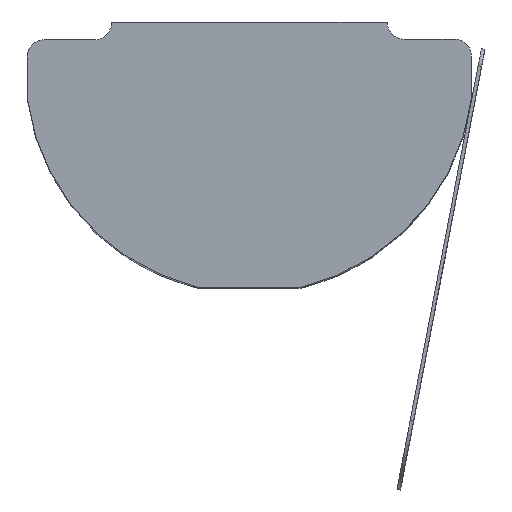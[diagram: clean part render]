
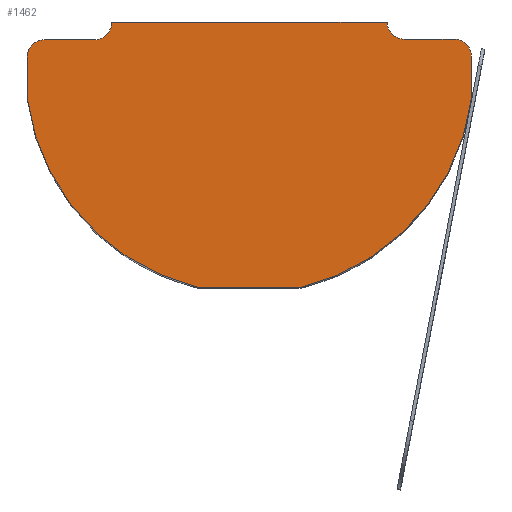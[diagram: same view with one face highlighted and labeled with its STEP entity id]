
A CAD part, top view. The second image highlights one B-rep face of the part: STEP entity #1462.
In plain terms, the highlighted planar face has unit normal (0, 0, 1).
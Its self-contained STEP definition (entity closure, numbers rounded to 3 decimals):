
#12 = EDGE_CURVE ( 'NONE', #1015, #1256, #1178, .T. ) ;
#14 = PLANE ( 'NONE',  #496 ) ;
#58 = CARTESIAN_POINT ( 'NONE',  ( -7.662, 0.56, 12.182 ) ) ;
#82 = DIRECTION ( 'NONE',  ( 0., -1., 0. ) ) ;
#110 = VERTEX_POINT ( 'NONE', #1385 ) ;
#116 = DIRECTION ( 'NONE',  ( 1., 0., 0. ) ) ;
#145 = CARTESIAN_POINT ( 'NONE',  ( 5.243, -0.655, 12.182 ) ) ;
#149 = CIRCLE ( 'NONE', #603, 6.509 ) ;
#178 = ORIENTED_EDGE ( 'NONE', *, *, #1261, .T. ) ;
#190 = DIRECTION ( 'NONE',  ( 1., 0., 0. ) ) ;
#191 = CARTESIAN_POINT ( 'NONE',  ( -7.662, -0.637, 12.182 ) ) ;
#205 = CARTESIAN_POINT ( 'NONE',  ( -7.662, -0.637, 12.182 ) ) ;
#215 = ORIENTED_EDGE ( 'NONE', *, *, #1771, .T. ) ;
#218 = AXIS2_PLACEMENT_3D ( 'NONE', #1222, #1410, #1101 ) ;
#249 = VERTEX_POINT ( 'NONE', #205 ) ;
#252 = ORIENTED_EDGE ( 'NONE', *, *, #501, .T. ) ;
#276 = CARTESIAN_POINT ( 'NONE',  ( -2.708, -6.122, 12.182 ) ) ;
#303 = ORIENTED_EDGE ( 'NONE', *, *, #618, .T. ) ;
#320 = VECTOR ( 'NONE', #590, 1000. ) ;
#344 = DIRECTION ( 'NONE',  ( -1., 0., 0. ) ) ;
#361 = CARTESIAN_POINT ( 'NONE',  ( 4.743, 0.578, 12.182 ) ) ;
#363 = VERTEX_POINT ( 'NONE', #542 ) ;
#379 = VECTOR ( 'NONE', #82, 1000. ) ;
#390 = VERTEX_POINT ( 'NONE', #58 ) ;
#424 = EDGE_CURVE ( 'NONE', #1165, #1943, #1090, .T. ) ;
#452 = CARTESIAN_POINT ( 'NONE',  ( 2.792, 1.078, 12.182 ) ) ;
#484 = DIRECTION ( 'NONE',  ( 0., 0., 1. ) ) ;
#496 = AXIS2_PLACEMENT_3D ( 'NONE', #1719, #815, #1259 ) ;
#501 = EDGE_CURVE ( 'NONE', #1943, #1015, #841, .T. ) ;
#542 = CARTESIAN_POINT ( 'NONE',  ( 0.292, -6.122, 12.182 ) ) ;
#558 = VERTEX_POINT ( 'NONE', #1286 ) ;
#590 = DIRECTION ( 'NONE',  ( 0., 1., 0. ) ) ;
#597 = CARTESIAN_POINT ( 'NONE',  ( -7.162, 1.06, 12.182 ) ) ;
#598 = LINE ( 'NONE', #1973, #320 ) ;
#603 = AXIS2_PLACEMENT_3D ( 'NONE', #1346, #706, #1790 ) ;
#618 = EDGE_CURVE ( 'NONE', #249, #822, #149, .T. ) ;
#680 = CARTESIAN_POINT ( 'NONE',  ( -5.208, 1.578, 12.182 ) ) ;
#706 = DIRECTION ( 'NONE',  ( 0., 0., 1. ) ) ;
#713 = ORIENTED_EDGE ( 'NONE', *, *, #424, .T. ) ;
#739 = EDGE_CURVE ( 'NONE', #558, #1375, #820, .T. ) ;
#784 = ORIENTED_EDGE ( 'NONE', *, *, #1896, .T. ) ;
#787 = CARTESIAN_POINT ( 'NONE',  ( -1.208, 0.212, 12.182 ) ) ;
#815 = DIRECTION ( 'NONE',  ( 0., 0., 1. ) ) ;
#816 = DIRECTION ( 'NONE',  ( 0., 0., 1. ) ) ;
#820 = LINE ( 'NONE', #1881, #1194 ) ;
#822 = VERTEX_POINT ( 'NONE', #971 ) ;
#841 = LINE ( 'NONE', #1125, #888 ) ;
#857 = ORIENTED_EDGE ( 'NONE', *, *, #739, .T. ) ;
#868 = LINE ( 'NONE', #452, #1818 ) ;
#888 = VECTOR ( 'NONE', #1735, 1000. ) ;
#890 = CIRCLE ( 'NONE', #1062, 0.5 ) ;
#909 = ORIENTED_EDGE ( 'NONE', *, *, #12, .T. ) ;
#911 = CARTESIAN_POINT ( 'NONE',  ( -5.708, 1.56, 12.182 ) ) ;
#925 = AXIS2_PLACEMENT_3D ( 'NONE', #911, #1523, #116 ) ;
#926 = LINE ( 'NONE', #276, #1155 ) ;
#957 = AXIS2_PLACEMENT_3D ( 'NONE', #1080, #1698, #1987 ) ;
#971 = CARTESIAN_POINT ( 'NONE',  ( -2.708, -6.122, 12.182 ) ) ;
#1015 = VERTEX_POINT ( 'NONE', #1082 ) ;
#1026 = EDGE_CURVE ( 'NONE', #822, #363, #926, .T. ) ;
#1062 = AXIS2_PLACEMENT_3D ( 'NONE', #361, #484, #1437 ) ;
#1080 = CARTESIAN_POINT ( 'NONE',  ( -7.162, 0.56, 12.182 ) ) ;
#1082 = CARTESIAN_POINT ( 'NONE',  ( -5.208, 1.578, 12.182 ) ) ;
#1090 = CIRCLE ( 'NONE', #218, 0.5 ) ;
#1101 = DIRECTION ( 'NONE',  ( 1., 0., 0. ) ) ;
#1125 = CARTESIAN_POINT ( 'NONE',  ( -5.208, 1.578, 12.182 ) ) ;
#1136 = CARTESIAN_POINT ( 'NONE',  ( 5.243, 0.578, 12.182 ) ) ;
#1155 = VECTOR ( 'NONE', #1355, 1000. ) ;
#1165 = VERTEX_POINT ( 'NONE', #1825 ) ;
#1178 = LINE ( 'NONE', #680, #1890 ) ;
#1194 = VECTOR ( 'NONE', #344, 1000. ) ;
#1200 = CARTESIAN_POINT ( 'NONE',  ( 2.792, 1.578, 12.182 ) ) ;
#1222 = CARTESIAN_POINT ( 'NONE',  ( 3.292, 1.578, 12.182 ) ) ;
#1256 = VERTEX_POINT ( 'NONE', #1429 ) ;
#1259 = DIRECTION ( 'NONE',  ( 1., 0., 0. ) ) ;
#1261 = EDGE_CURVE ( 'NONE', #363, #1925, #1861, .T. ) ;
#1286 = CARTESIAN_POINT ( 'NONE',  ( -5.708, 1.06, 12.182 ) ) ;
#1346 = CARTESIAN_POINT ( 'NONE',  ( -1.208, 0.212, 12.182 ) ) ;
#1355 = DIRECTION ( 'NONE',  ( 1., 0., 0. ) ) ;
#1375 = VERTEX_POINT ( 'NONE', #597 ) ;
#1385 = CARTESIAN_POINT ( 'NONE',  ( 4.743, 1.078, 12.182 ) ) ;
#1392 = DIRECTION ( 'NONE',  ( -1., 0., 0. ) ) ;
#1410 = DIRECTION ( 'NONE',  ( 0., 0., -1. ) ) ;
#1427 = ORIENTED_EDGE ( 'NONE', *, *, #1940, .T. ) ;
#1429 = CARTESIAN_POINT ( 'NONE',  ( -5.208, 1.56, 12.182 ) ) ;
#1437 = DIRECTION ( 'NONE',  ( 1., 0., 0. ) ) ;
#1462 = ADVANCED_FACE ( 'NONE', ( #1550 ), #14, .T. ) ;
#1523 = DIRECTION ( 'NONE',  ( 0., 0., -1. ) ) ;
#1529 = EDGE_LOOP ( 'NONE', ( #857, #1762, #215, #303, #1601, #178, #1427, #1778, #1873, #713, #252, #909, #784 ) ) ;
#1550 = FACE_OUTER_BOUND ( 'NONE', #1529, .T. ) ;
#1562 = LINE ( 'NONE', #191, #379 ) ;
#1601 = ORIENTED_EDGE ( 'NONE', *, *, #1026, .T. ) ;
#1644 = EDGE_CURVE ( 'NONE', #1375, #390, #1919, .T. ) ;
#1698 = DIRECTION ( 'NONE',  ( 0., 0., 1. ) ) ;
#1707 = EDGE_CURVE ( 'NONE', #1734, #110, #890, .T. ) ;
#1719 = CARTESIAN_POINT ( 'NONE',  ( -1.208, 0.212, 12.182 ) ) ;
#1734 = VERTEX_POINT ( 'NONE', #1136 ) ;
#1735 = DIRECTION ( 'NONE',  ( -1., 0., 0. ) ) ;
#1762 = ORIENTED_EDGE ( 'NONE', *, *, #1644, .T. ) ;
#1771 = EDGE_CURVE ( 'NONE', #390, #249, #1562, .T. ) ;
#1778 = ORIENTED_EDGE ( 'NONE', *, *, #1707, .T. ) ;
#1787 = CIRCLE ( 'NONE', #925, 0.5 ) ;
#1790 = DIRECTION ( 'NONE',  ( 1., 0., 0. ) ) ;
#1818 = VECTOR ( 'NONE', #1392, 1000. ) ;
#1825 = CARTESIAN_POINT ( 'NONE',  ( 3.292, 1.078, 12.182 ) ) ;
#1837 = EDGE_CURVE ( 'NONE', #110, #1165, #868, .T. ) ;
#1861 = CIRCLE ( 'NONE', #1995, 6.509 ) ;
#1873 = ORIENTED_EDGE ( 'NONE', *, *, #1837, .T. ) ;
#1881 = CARTESIAN_POINT ( 'NONE',  ( -7.662, 1.06, 12.182 ) ) ;
#1890 = VECTOR ( 'NONE', #1930, 1000. ) ;
#1896 = EDGE_CURVE ( 'NONE', #1256, #558, #1787, .T. ) ;
#1919 = CIRCLE ( 'NONE', #957, 0.5 ) ;
#1925 = VERTEX_POINT ( 'NONE', #145 ) ;
#1930 = DIRECTION ( 'NONE',  ( 0., -1., 0. ) ) ;
#1940 = EDGE_CURVE ( 'NONE', #1925, #1734, #598, .T. ) ;
#1943 = VERTEX_POINT ( 'NONE', #1200 ) ;
#1973 = CARTESIAN_POINT ( 'NONE',  ( 5.243, 1.078, 12.182 ) ) ;
#1987 = DIRECTION ( 'NONE',  ( 1., 0., 0. ) ) ;
#1995 = AXIS2_PLACEMENT_3D ( 'NONE', #787, #816, #190 ) ;
